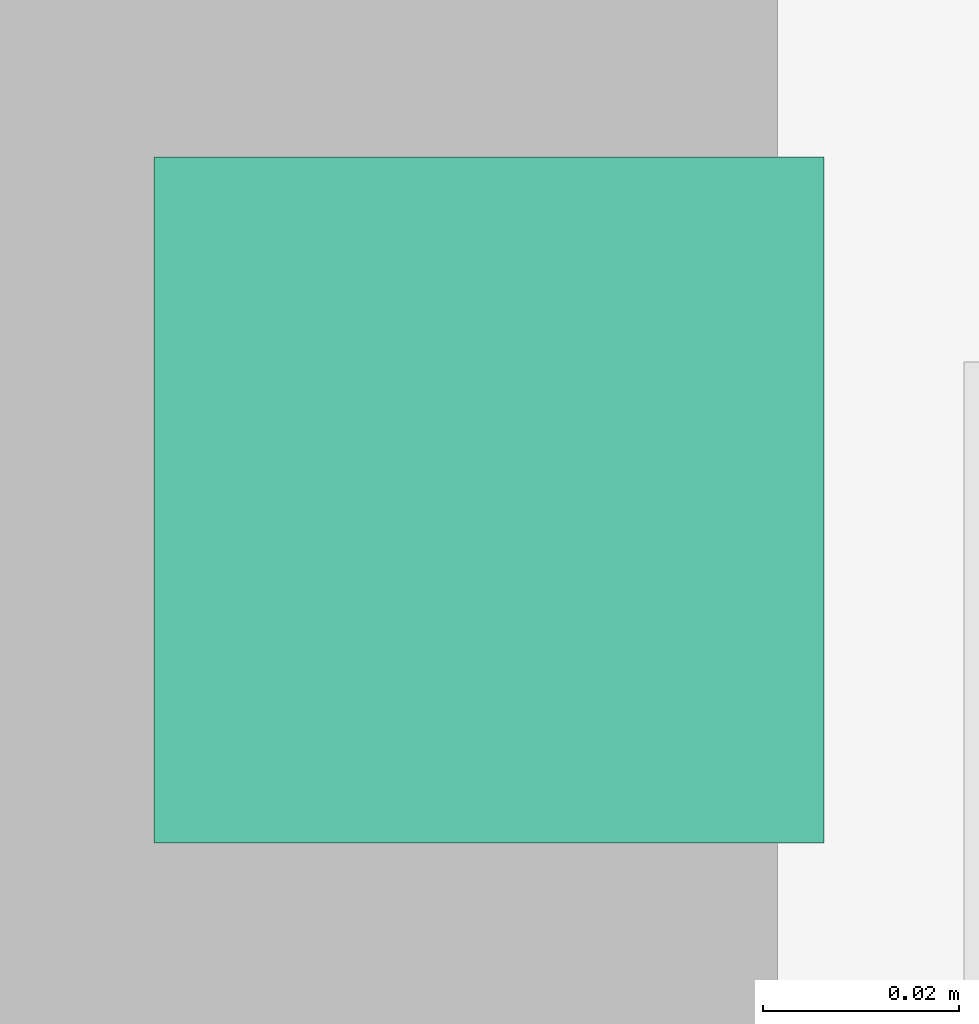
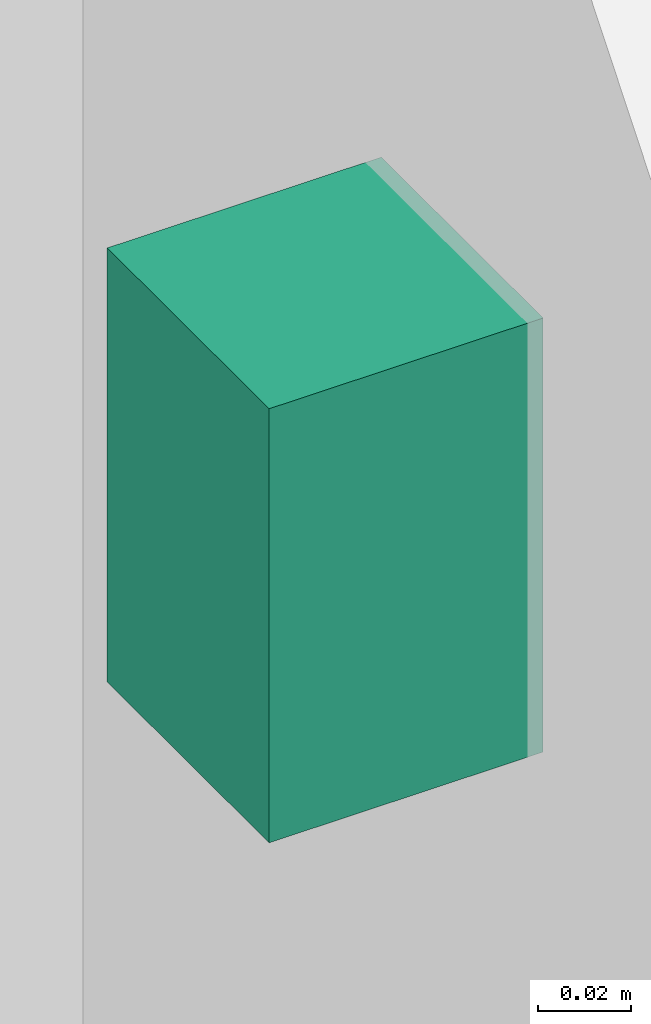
# One storey, part 81 of 108: 1 outlet.
"""IFC4 building model written with IfcOpenShell, lengths in feet."""

from ifc_helpers import new_model, entity, si_unit, converted_unit, derived_unit, direction, frame, origin, origin_2d_with_axis, place, context, subcontext, project, spatial, rectangle, extrude, source, transform, mapped, type_object, type_shapes, element, save


model = new_model("IFC4")

# Units and contexts
model_context = context("Model", 3, precision=0.0001, world=origin(), true_north=direction((6.12303176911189e-17, 1.0)))
body_context = subcontext(model_context, "Body", "Model", "MODEL_VIEW")
ifc_project = project(units=[converted_unit("LENGTHUNIT", "FOOT", entity("IfcRatioMeasure", 0.3048), si_unit("LENGTHUNIT", "METRE"), dimensions=[1, 0, 0, 0, 0, 0, 0]), converted_unit("AREAUNIT", "SQUARE FOOT", entity("IfcRatioMeasure", 0.09290304), si_unit("AREAUNIT", "SQUARE_METRE"), dimensions=[2, 0, 0, 0, 0, 0, 0]), converted_unit("VOLUMEUNIT", "CUBIC FOOT", entity("IfcRatioMeasure", 0.028316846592), si_unit("VOLUMEUNIT", "CUBIC_METRE"), dimensions=[3, 0, 0, 0, 0, 0, 0]), converted_unit("PLANEANGLEUNIT", "DEGREE", entity("IfcRatioMeasure", 0.0174532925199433), si_unit("PLANEANGLEUNIT", "RADIAN"), dimensions=[0, 0, 0, 0, 0, 0, 0]), si_unit("MASSUNIT", "GRAM", prefix="KILO"), derived_unit("MASSDENSITYUNIT", [(si_unit("MASSUNIT", "GRAM", prefix="KILO"), 1), (si_unit("LENGTHUNIT", "METRE"), -3)]), si_unit("TIMEUNIT", "SECOND"), si_unit("FREQUENCYUNIT", "HERTZ"), si_unit("THERMODYNAMICTEMPERATUREUNIT", "DEGREE_CELSIUS"), derived_unit("THERMALTRANSMITTANCEUNIT", [(si_unit("MASSUNIT", "GRAM", prefix="KILO"), 1), (si_unit("THERMODYNAMICTEMPERATUREUNIT", "KELVIN"), -1), (si_unit("TIMEUNIT", "SECOND"), -3)]), derived_unit("VOLUMETRICFLOWRATEUNIT", [(si_unit("LENGTHUNIT", "METRE"), 3), (si_unit("TIMEUNIT", "SECOND"), -1)]), si_unit("ELECTRICCURRENTUNIT", "AMPERE"), si_unit("ELECTRICVOLTAGEUNIT", "VOLT"), si_unit("POWERUNIT", "WATT"), si_unit("FORCEUNIT", "NEWTON"), si_unit("ILLUMINANCEUNIT", "LUX"), si_unit("LUMINOUSFLUXUNIT", "LUMEN"), si_unit("LUMINOUSINTENSITYUNIT", "CANDELA"), derived_unit("USERDEFINED", [(si_unit("MASSUNIT", "GRAM", prefix="KILO"), -1), (si_unit("LENGTHUNIT", "METRE"), -2), (si_unit("TIMEUNIT", "SECOND"), 3), (si_unit("LUMINOUSFLUXUNIT", "LUMEN"), 1)]), derived_unit("LINEARVELOCITYUNIT", [(si_unit("LENGTHUNIT", "METRE"), 1), (si_unit("TIMEUNIT", "SECOND"), -1)]), si_unit("PRESSUREUNIT", "PASCAL"), derived_unit("USERDEFINED", [(si_unit("LENGTHUNIT", "METRE"), -2), (si_unit("MASSUNIT", "GRAM", prefix="KILO"), 1), (si_unit("TIMEUNIT", "SECOND"), -2)])], contexts=[model_context])

# Site, building, storey
site_placement = place(None, origin())
site = spatial("IfcSite", under=ifc_project, at=site_placement, Name="Default", CompositionType="ELEMENT")
building_placement = place(site_placement, origin())
building = spatial("IfcBuilding", under=site, at=building_placement, CompositionType="ELEMENT")
storey_placement = place(building_placement, frame((0.0, 0.0, 168.0)))
storey = spatial("IfcBuildingStorey", under=building, at=storey_placement, Name="Level 15", CompositionType="ELEMENT", Elevation=168.0)

# Outlet
outlet_type = type_object("IfcOutletType", Name="Duplex-Standard 2", PredefinedType="POWEROUTLET")
shared_shape = source(origin(), body_context, "Body", "SweptSolid", [
    extrude(rectangle(XDim=0.229166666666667, YDim=0.375000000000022, at=origin_2d_with_axis()), frame((0.0, 0.0, -0.208333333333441), z_axis=(0.0, 0.0, 1.0), x_axis=(-1.0, 0.0, 0.0)), (0.0, 0.0, 1.0), 0.208333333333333),
    extrude(rectangle(XDim=0.229166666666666, YDim=0.375000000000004, at=origin_2d_with_axis()), frame((0.0, 0.0, 0.0), z_axis=(0.0, 0.0, 1.0), x_axis=(-1.0, 0.0, 0.0)), (0.0, 0.0, 1.0), 0.015625),
])
type_shapes(outlet_type, [shared_shape])
outlet_placement = place(storey_placement, frame((32.571870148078, -19.7657690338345, 2.3333333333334), z_axis=(1.0, 0.0, 0.0), x_axis=(0.0, 1.0, 0.0)))
element("IfcOutlet", 1, at=outlet_placement, inside=storey, type_object=outlet_type, Name="Power-Recessed-All2:Duplex-Standard 2", ObjectType="Power-Recessed-All2:Duplex-Standard 2", PredefinedType="POWEROUTLET", context=body_context, shape_type="MappedRepresentation", body=[
    mapped(shared_shape, transform((0.0, 0.0, 0.0), scale=1.0)),
])

save(model, "model.ifc")
